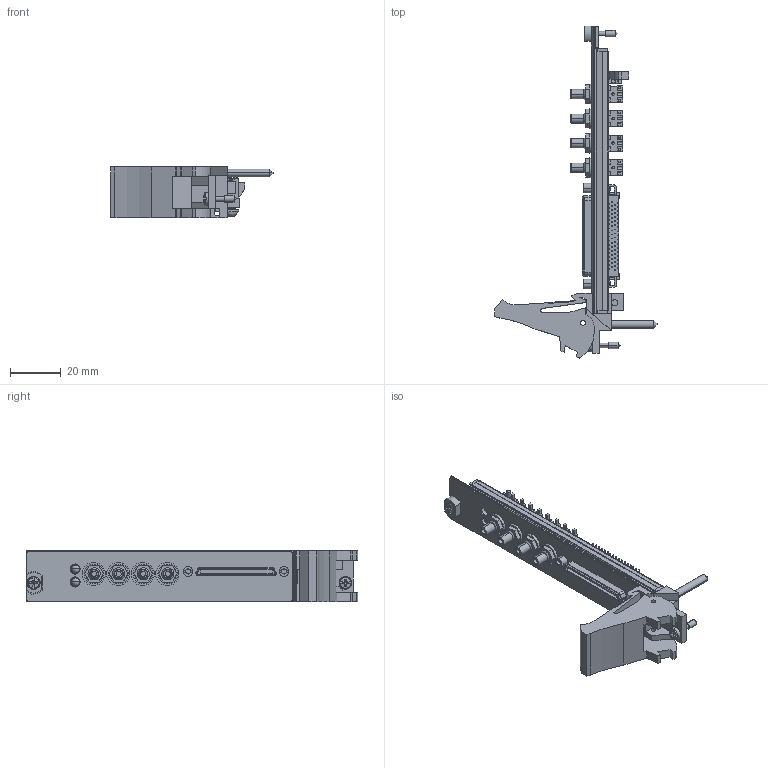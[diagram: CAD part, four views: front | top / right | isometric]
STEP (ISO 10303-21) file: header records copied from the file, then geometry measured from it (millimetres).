
FILE_DESCRIPTION((''),'2;1');
FILE_NAME('CU_PXI-5441','2009-12-29T',('jjorden'),(''),'PRO/ENGINEER BY PARAMETRIC TECHNOLOGY CORPORATION, 2006080','PRO/ENGINEER BY PARAMETRIC TECHNOLOGY CORPORATION, 2006080','');
FILE_SCHEMA(('CONFIG_CONTROL_DESIGN'));
Length unit declared in the file: inch
Products named in the file (1): CU_PXI-5441
Bounding box: 63.73 x 130.51 x 20.31 mm (x, y, z)
Volume: 19222.4 mm3; surface area: 20472.9 mm2
Topology: 2 solids, 2 shells, 2050 faces, 5642 edges, 3658 vertices
Faces by surface type: plane 1577, cylinder 401, cone 38, bspline 13, sphere 12, torus 7, extrusion 2
Entity records: 66392 total; most frequent: CARTESIAN_POINT 13085, ORIENTED_EDGE 11260, DIRECTION 10641, EDGE_CURVE 5630, VECTOR 4555, LINE 4553, VERTEX_POINT 3677, AXIS2_PLACEMENT_3D 3043
